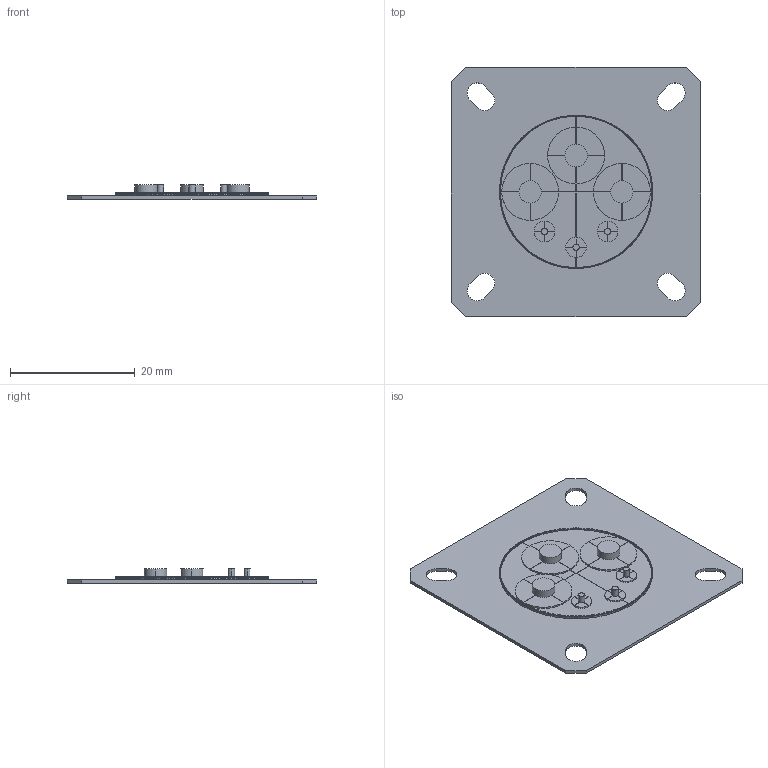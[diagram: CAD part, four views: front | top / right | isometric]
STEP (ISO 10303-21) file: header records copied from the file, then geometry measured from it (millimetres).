
FILE_DESCRIPTION((''),'2;1');
FILE_NAME('SMILEY_2_ASM','2021-03-01T15:50:53',('ccole'),(''),'CREO PARAMETRIC BY PTC INC, 2019292','CREO PARAMETRIC BY PTC INC, 2019292','');
FILE_SCHEMA(('CONFIG_CONTROL_DESIGN'));
Length unit declared in the file: inch
Products named in the file (4): INSERT_SIM_DUMMY-21; CONTACT_SIM_DUMMY-08; CONTACT_SIM_DUMMY-20; SMILEY_2_ASM
Assembly tree (7 placements, depth 2):
  SMILEY_2_ASM
    INSERT_SIM_DUMMY-21
    CONTACT_SIM_DUMMY-08  x3
    CONTACT_SIM_DUMMY-20  x3
Bounding box: 40.01 x 40.01 x 2.29 mm (x, y, z)
Volume: 1000 mm3; surface area: 3758.5 mm2
Topology: 7 solids, 7 shells, 1281 faces, 3748 edges, 2482 vertices
Faces by surface type: plane 703, cylinder 578
Entity records: 43181 total; most frequent: CARTESIAN_POINT 14735, ORIENTED_EDGE 6984, DIRECTION 4458, EDGE_CURVE 3492, VERTEX_POINT 2322, B_SPLINE_CURVE_WITH_KNOTS 1828, AXIS2_PLACEMENT_3D 1606, VECTOR 1246
